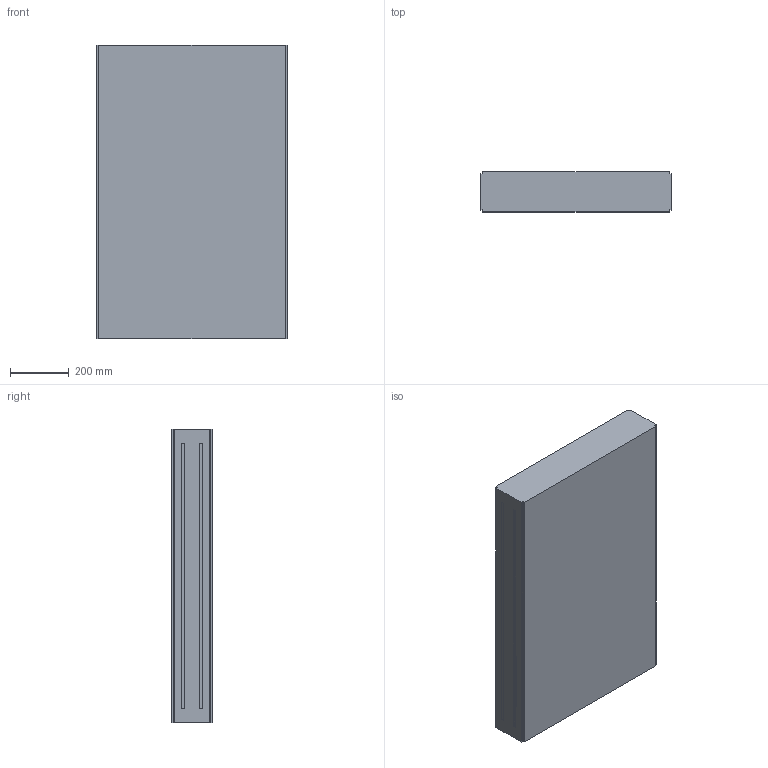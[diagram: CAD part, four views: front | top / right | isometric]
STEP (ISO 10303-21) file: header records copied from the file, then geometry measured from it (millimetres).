
FILE_DESCRIPTION (( 'STEP AP214' ), '1' );
FILE_NAME ('FS-MTC2-150-INOX Baansectie (niet gebruiken).650.STEP', '2017-02-08T12:43:28', ( '' ), ( '' ), 'SwSTEP 2.0', 'SolidWorks 2016', '' );
FILE_SCHEMA (( 'AUTOMOTIVE_DESIGN' ));
Length unit declared in the file: millimetre
Products named in the file (1): FS-MTC2-150-INOX Baansectie (niet gebruiken).650
Bounding box: 650.5 x 136.5 x 1000 mm (x, y, z)
Volume: 88502172.5 mm3; surface area: 1769514.5 mm2
Topology: 1 solids, 1 shells, 42 faces, 108 edges, 72 vertices
Faces by surface type: plane 42
Entity records: 1286 total; most frequent: CARTESIAN_POINT 223, ORIENTED_EDGE 216, DIRECTION 194, LINE 108, EDGE_CURVE 108, VECTOR 108, VERTEX_POINT 72, EDGE_LOOP 46
